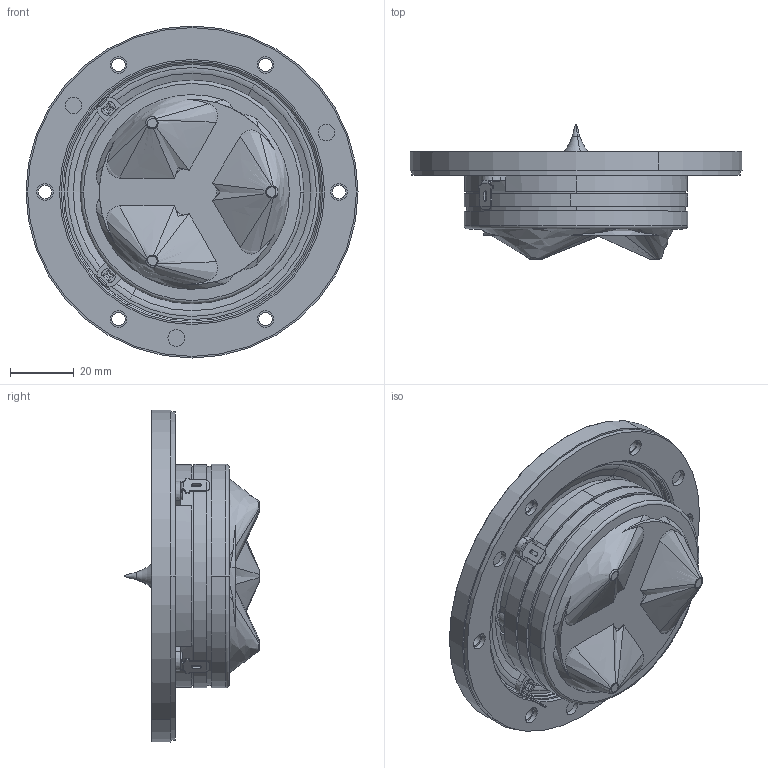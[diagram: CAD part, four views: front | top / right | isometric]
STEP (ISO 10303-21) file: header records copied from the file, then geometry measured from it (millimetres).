
FILE_DESCRIPTION (( 'STEP AP214' ), '1' );
FILE_NAME ('R2904-700005.STEP', '2020-11-24T08:20:13', ( '' ), ( '' ), 'SwSTEP 2.0', 'SolidWorks 2019', '' );
FILE_SCHEMA (( 'AUTOMOTIVE_DESIGN' ));
Length unit declared in the file: millimetre
Products named in the file (1): R2904-700005
Bounding box: 104 x 42.21 x 104 mm (x, y, z)
Volume: 119093.2 mm3; surface area: 33325 mm2
Topology: 1 solids, 8 shells, 448 faces, 1161 edges, 757 vertices
Faces by surface type: cylinder 168, plane 144, bspline 60, torus 38, cone 30, sphere 8
Entity records: 21158 total; most frequent: CARTESIAN_POINT 5730, ORIENTED_EDGE 2318, DIRECTION 2147, EDGE_CURVE 1159, AXIS2_PLACEMENT_3D 855, VERTEX_POINT 757, EDGE_LOOP 512, CIRCLE 466
